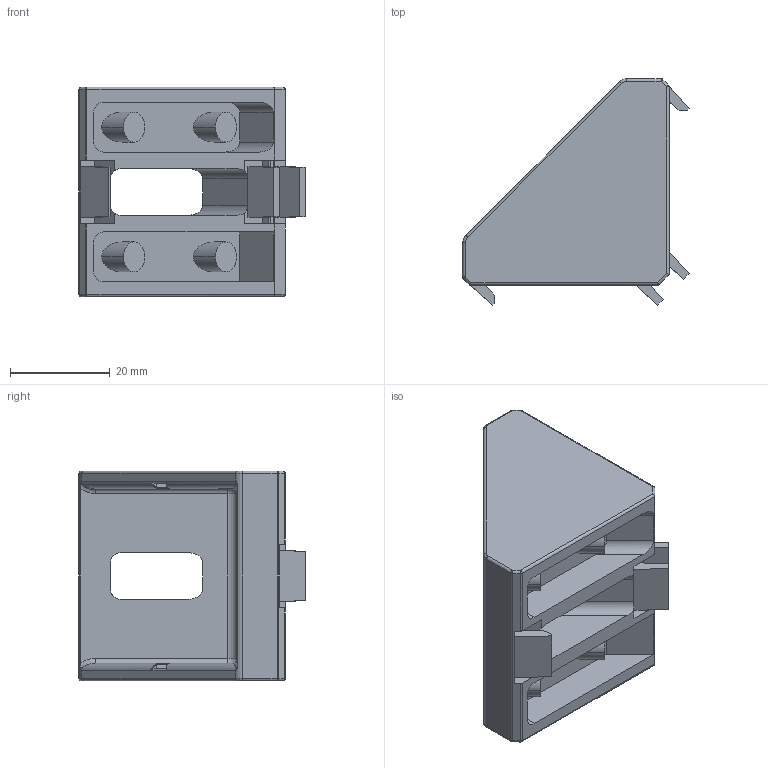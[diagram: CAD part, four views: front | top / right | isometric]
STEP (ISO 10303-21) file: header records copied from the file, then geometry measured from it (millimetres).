
FILE_DESCRIPTION(('STEP AP214'),'1');
FILE_NAME('C:/TPO v2/SharedFS/Outgoing/fath_093w421n10.stp','2016-06-29T13:14:31',('TraceParts'),('TraceParts S.A.'),'Spatial InterOp 3D',' ',' ');
FILE_SCHEMA(('automotive_design'));
Length unit declared in the file: millimetre
Products named in the file (1): Fo5-0,5
Bounding box: 45.3 x 45.3 x 42 mm (x, y, z)
Volume: 20339 mm3; surface area: 13494.1 mm2
Topology: 1 solids, 1 shells, 227 faces, 567 edges, 348 vertices
Faces by surface type: plane 97, cylinder 92, bspline 16, torus 14, sphere 8
Entity records: 8834 total; most frequent: CARTESIAN_POINT 1807, ORIENTED_EDGE 1122, DIRECTION 1045, EDGE_CURVE 561, AXIS2_PLACEMENT_3D 362, VERTEX_POINT 348, LINE 321, VECTOR 321
